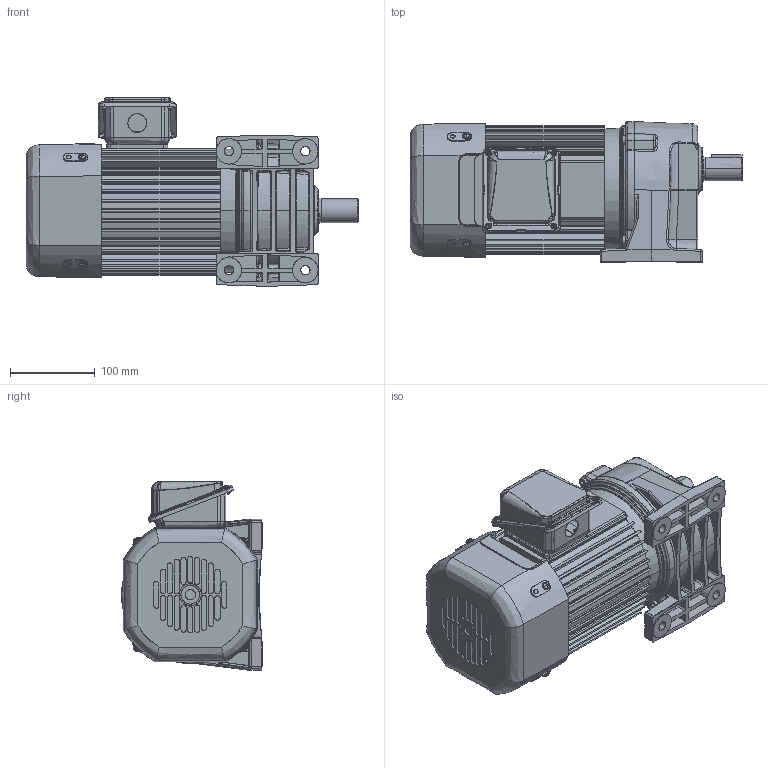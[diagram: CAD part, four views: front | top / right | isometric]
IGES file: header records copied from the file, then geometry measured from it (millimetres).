
Start section: SolidWorks IGES file using analytic representation for surfaces
Global section: file name: \\100.100.100.8\1_共有作業フォルダ\1-5_３Ｄデータ\solidworks\personal-folder\H.Nagayama\SGP1外形075~370\P1(3D)_075~370\igs\TMLB2-07-(5~25).IGS; native system: SolidWorks 2018; preprocessor: SolidWorks 2018; author: sigma-giken; date: 200807.144123; units: millimetre
Bounding box: 391 x 166 x 222.3 mm (x, y, z)
Surface area: 516486.9 mm2 (no closed solid volume)
Topology: 0 solids, 0 shells, 1742 faces, 20766 edges, 20725 vertices
Faces by surface type: bspline 899, revolution 843
